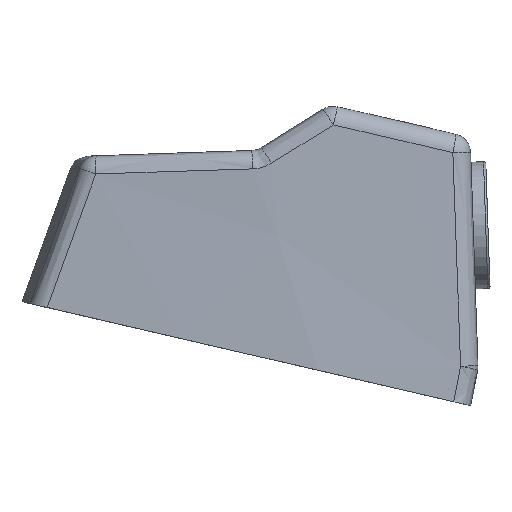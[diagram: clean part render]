
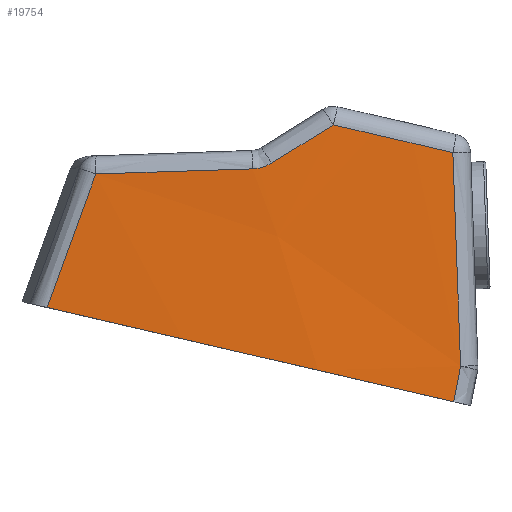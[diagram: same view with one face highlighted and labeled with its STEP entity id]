
A CAD part, left-side view. The second image highlights one B-rep face of the part: STEP entity #19754.
In plain terms, the highlighted conical face has half-angle 2 degrees and reference radius 1620 mm.
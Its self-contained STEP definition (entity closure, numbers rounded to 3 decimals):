
#12491=CARTESIAN_POINT('',(-148.512,-140.781,24.518));
#12492=VERTEX_POINT('',#12491);
#12500=CARTESIAN_POINT('',(-149.296,-141.644,0.));
#12501=VERTEX_POINT('',#12500);
#12502=CARTESIAN_POINT('',(-148.512,-140.781,24.518));
#12503=CARTESIAN_POINT('',(-148.773,-141.069,16.346));
#12504=CARTESIAN_POINT('',(-149.035,-141.356,8.173));
#12505=CARTESIAN_POINT('',(-149.296,-141.644,0.));
#12506=B_SPLINE_CURVE_WITH_KNOTS('',3,(#12502,#12503,#12504,#12505),.UNSPECIFIED.,.F.,.U.,(4,4),(-3.756,-1.302),.UNSPECIFIED.);
#12507=EDGE_CURVE('',#12492,#12501,#12506,.T.);
#14660=CARTESIAN_POINT('',(-150.981,26.889,122.995));
#14661=VERTEX_POINT('',#14660);
#14669=CARTESIAN_POINT('',(-150.899,15.144,129.723));
#14670=VERTEX_POINT('',#14669);
#14671=CARTESIAN_POINT('',(-150.981,26.889,122.995));
#14672=CARTESIAN_POINT('',(-150.997,24.687,123.581));
#14673=CARTESIAN_POINT('',(-150.998,20.422,125.331));
#14674=CARTESIAN_POINT('',(-150.94,16.756,128.124));
#14675=CARTESIAN_POINT('',(-150.899,15.144,129.723));
#14676=B_SPLINE_CURVE_WITH_KNOTS('',3,(#14671,#14672,#14673,#14674,#14675),.UNSPECIFIED.,.F.,.U.,(4,1,4),(-1.357,-0.679,0.),.UNSPECIFIED.);
#14677=EDGE_CURVE('',#14661,#14670,#14676,.T.);
#14736=CARTESIAN_POINT('',(-146.955,129.612,95.671));
#14737=VERTEX_POINT('',#14736);
#14782=CARTESIAN_POINT('',(-149.328,141.281,0.));
#14783=VERTEX_POINT('',#14782);
#14806=CARTESIAN_POINT('',(-149.328,141.281,0.));
#14807=CARTESIAN_POINT('',(-148.55,137.39,31.89));
#14808=CARTESIAN_POINT('',(-147.76,133.501,63.781));
#14809=CARTESIAN_POINT('',(-146.955,129.612,95.671));
#14810=B_SPLINE_CURVE_WITH_KNOTS('',3,(#14806,#14807,#14808,#14809),.UNSPECIFIED.,.F.,.U.,(4,4),(1.31,10.95),.UNSPECIFIED.);
#14811=EDGE_CURVE('',#14783,#14737,#14810,.T.);
#14850=CARTESIAN_POINT('',(-146.955,129.612,95.671));
#14851=CARTESIAN_POINT('',(-149.386,95.425,104.765));
#14852=CARTESIAN_POINT('',(-150.729,61.161,113.879));
#14853=CARTESIAN_POINT('',(-150.981,26.889,122.995));
#14854=B_SPLINE_CURVE_WITH_KNOTS('',3,(#14850,#14851,#14852,#14853),.UNSPECIFIED.,.F.,.U.,(4,4),(1.5,1.564),.UNSPECIFIED.);
#14855=EDGE_CURVE('',#14737,#14661,#14854,.T.);
#15193=CARTESIAN_POINT('',(-146.471,-102.955,164.454));
#15194=VERTEX_POINT('',#15193);
#15228=CARTESIAN_POINT('',(-149.635,-19.868,164.454));
#15229=VERTEX_POINT('',#15228);
#15277=CARTESIAN_POINT('',(-150.899,15.144,129.723));
#15278=CARTESIAN_POINT('',(-150.604,3.47,141.304));
#15279=CARTESIAN_POINT('',(-150.183,-8.202,152.882));
#15280=CARTESIAN_POINT('',(-149.635,-19.868,164.454));
#15281=B_SPLINE_CURVE_WITH_KNOTS('',3,(#15277,#15278,#15279,#15280),.UNSPECIFIED.,.F.,.U.,(4,4),(-1.545,-1.524),.UNSPECIFIED.);
#15282=EDGE_CURVE('',#14670,#15229,#15281,.T.);
#15301=CARTESIAN_POINT('',(1464.5,0.,164.454));
#15302=DIRECTION('',(0.0,0.0,1.0));
#15303=DIRECTION('',(-0.999,-0.039,0.0));
#15304=AXIS2_PLACEMENT_3D('',#15301,#15302,#15303);
#15305=CIRCLE('',#15304,1614.257);
#15306=EDGE_CURVE('',#15229,#15194,#15305,.T.);
#15367=CARTESIAN_POINT('',(-146.471,-102.955,164.454));
#15368=CARTESIAN_POINT('',(-147.296,-115.556,117.841));
#15369=CARTESIAN_POINT('',(-147.977,-128.165,71.192));
#15370=CARTESIAN_POINT('',(-148.512,-140.781,24.518));
#15371=B_SPLINE_CURVE_WITH_KNOTS('',3,(#15367,#15368,#15369,#15370),.UNSPECIFIED.,.F.,.U.,(4,4),(1.504,1.527),.UNSPECIFIED.);
#15372=EDGE_CURVE('',#15194,#12492,#15371,.T.);
#15594=CARTESIAN_POINT('',(1464.5,0.0,0.0));
#15595=DIRECTION('',(0.0,0.0,1.0));
#15596=DIRECTION('',(-0.996,0.094,0.0));
#15597=AXIS2_PLACEMENT_3D('',#15594,#15595,#15596);
#15598=CIRCLE('',#15597,1620.0);
#15599=EDGE_CURVE('',#14783,#12501,#15598,.T.);
#19739=CARTESIAN_POINT('',(1464.5,0.0,0.0));
#19740=DIRECTION('',(0.0,0.0,-1.0));
#19741=DIRECTION('',(-0.996,0.094,0.0));
#19742=AXIS2_PLACEMENT_3D('',#19739,#19740,#19741);
#19743=CONICAL_SURFACE('',#19742,1620.0,2.0);
#19744=ORIENTED_EDGE('',*,*,#14811,.F.);
#19745=ORIENTED_EDGE('',*,*,#15599,.T.);
#19746=ORIENTED_EDGE('',*,*,#12507,.F.);
#19747=ORIENTED_EDGE('',*,*,#15372,.F.);
#19748=ORIENTED_EDGE('',*,*,#15306,.F.);
#19749=ORIENTED_EDGE('',*,*,#15282,.F.);
#19750=ORIENTED_EDGE('',*,*,#14677,.F.);
#19751=ORIENTED_EDGE('',*,*,#14855,.F.);
#19752=EDGE_LOOP('',(#19744,#19745,#19746,#19747,#19748,#19749,#19750,#19751));
#19753=FACE_OUTER_BOUND('',#19752,.T.);
#19754=ADVANCED_FACE('',(#19753),#19743,.T.);
